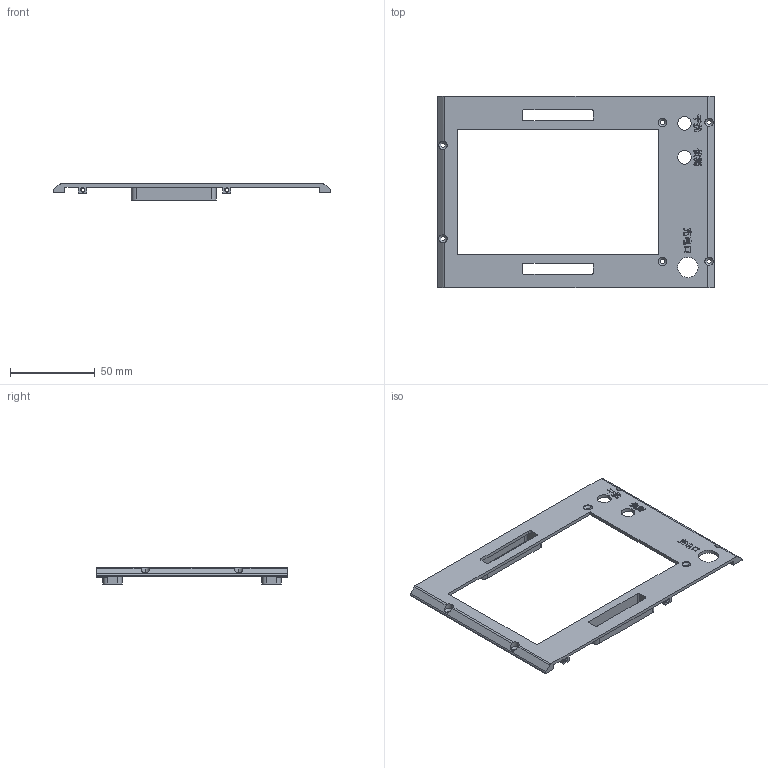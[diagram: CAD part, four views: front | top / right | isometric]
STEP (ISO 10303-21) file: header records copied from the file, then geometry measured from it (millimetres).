
FILE_DESCRIPTION (( 'STEP AP203' ), '1' );
FILE_NAME ('干扰枪-外盒体3.STEP', '2026-09-30T00:32:04', ( '' ), ( '' ), 'SwSTEP 2.0', 'SolidWorks 2016', '' );
FILE_SCHEMA (( 'CONFIG_CONTROL_DESIGN' ));
Length unit declared in the file: millimetre
Products named in the file (1): 干扰枪-外盒体3
Bounding box: 164 x 113 x 9.5 mm (x, y, z)
Volume: 23058.8 mm3; surface area: 25281.7 mm2
Topology: 1 solids, 1 shells, 188 faces, 725 edges, 565 vertices
Faces by surface type: plane 82, cylinder 78, cone 28
Entity records: 9064 total; most frequent: CARTESIAN_POINT 2697, ORIENTED_EDGE 1450, DIRECTION 1157, EDGE_CURVE 725, VERTEX_POINT 565, LINE 451, VECTOR 451, AXIS2_PLACEMENT_3D 353
